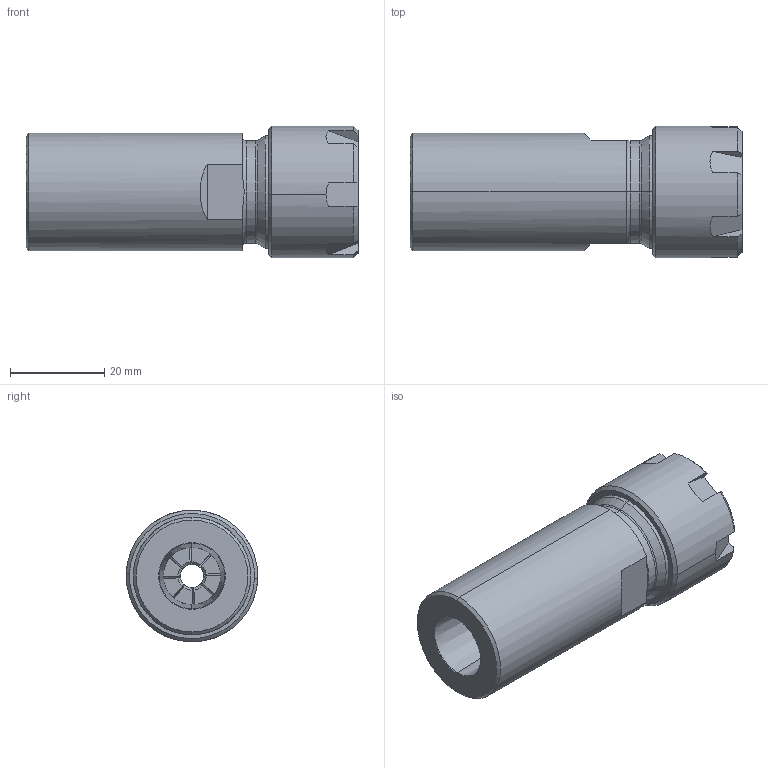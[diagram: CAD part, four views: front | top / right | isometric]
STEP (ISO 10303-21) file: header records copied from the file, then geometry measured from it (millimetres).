
FILE_DESCRIPTION (( 'STEP AP203' ), '1' );
FILE_NAME ('040J000123 Collet chuck ER20 JT2 1-15 mm.STEP', '2009-09-03T13:25:56', ( 'HP' ), ( '' ), 'SwSTEP 2.0', 'SolidWorks 2008', '' );
FILE_SCHEMA (( 'CONFIG_CONTROL_DESIGN' ));
Length unit declared in the file: millimetre
Products named in the file (4): 040J000123 Collet chuck ER20 JT2 1-15 mm; 300485_Fas 1; 041J004086 ER20 mutter (dummy); Collet ER20 Ø5 mm
Assembly tree (3 placements, depth 2):
  040J000123 Collet chuck ER20 JT2 1-15 mm
    041J004086 ER20 mutter (dummy)
    Collet ER20 Ø5 mm
    300485_Fas 1
Bounding box: 70.6 x 27.99 x 27.98 mm (x, y, z)
Volume: 27296.9 mm3; surface area: 19237.3 mm2
Topology: 3 solids, 3 shells, 213 faces, 598 edges, 391 vertices
Faces by surface type: plane 102, cone 68, cylinder 39, torus 4
Entity records: 7641 total; most frequent: CARTESIAN_POINT 1845, ORIENTED_EDGE 1196, DIRECTION 1091, EDGE_CURVE 598, AXIS2_PLACEMENT_3D 429, VERTEX_POINT 391, VECTOR 233, LINE 233
